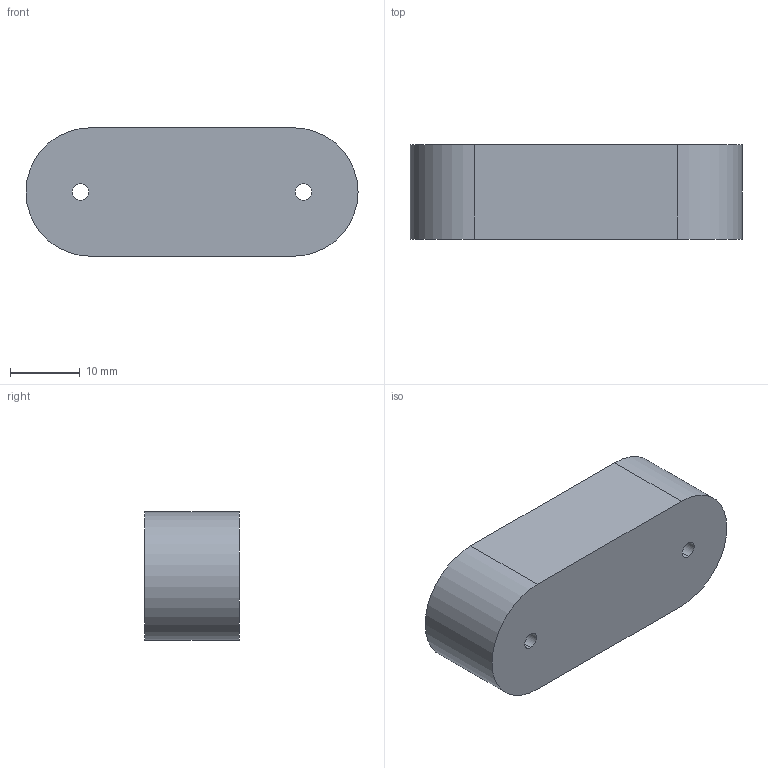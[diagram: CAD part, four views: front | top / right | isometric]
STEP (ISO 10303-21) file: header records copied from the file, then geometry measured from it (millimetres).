
FILE_DESCRIPTION (( 'STEP AP214' ), '1' );
FILE_NAME ('5070_V01_POCKET_CLOSED_SGL_CLIP_SER.STEP', '2025-07-07T17:34:21', ( '' ), ( '' ), 'SwSTEP 2.0', 'SolidWorks 2025', '' );
FILE_SCHEMA (( 'AUTOMOTIVE_DESIGN' ));
Length unit declared in the file: inch
Products named in the file (1): 5070_V01_POCKET_CLOSED_SGL_CLIP_SER
Bounding box: 47.6 x 13.54 x 18.41 mm (x, y, z)
Volume: 5042.7 mm3; surface area: 4303.9 mm2
Topology: 1 solids, 1 shells, 15 faces, 36 edges, 24 vertices
Faces by surface type: cylinder 8, plane 7
Entity records: 481 total; most frequent: DIRECTION 84, CARTESIAN_POINT 76, ORIENTED_EDGE 72, EDGE_CURVE 36, AXIS2_PLACEMENT_3D 32, VERTEX_POINT 24, VECTOR 20, LINE 20
